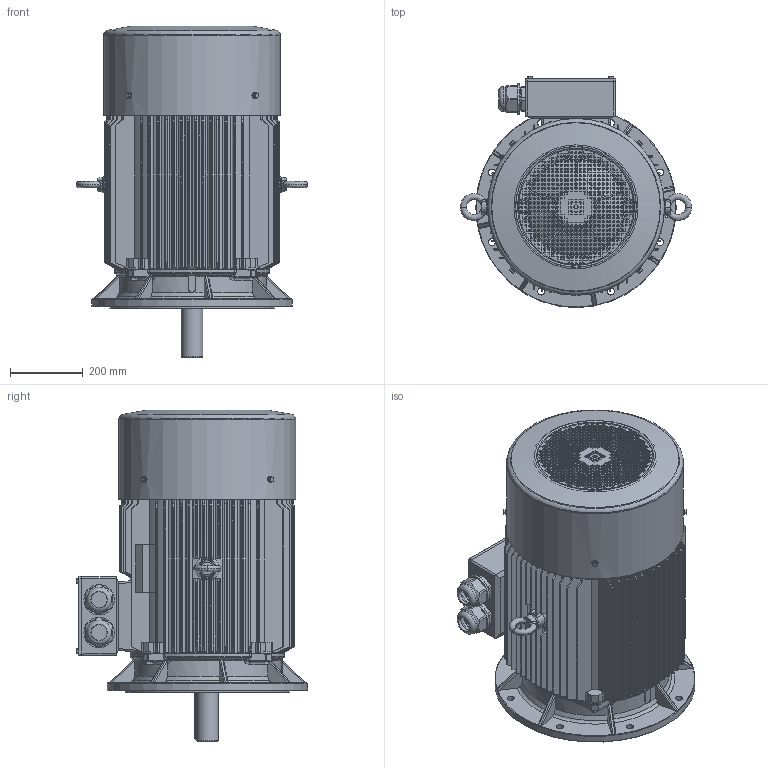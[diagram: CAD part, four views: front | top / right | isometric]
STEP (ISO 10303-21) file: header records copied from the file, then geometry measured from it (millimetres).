
FILE_DESCRIPTION(/* description */ (''),/* implementation_level */ '2;1');
FILE_NAME(/* name */ 'JM1-250M-2-B5.stp',/* time_stamp */ '2016-11-29T09:53:52+08:00',/* author */ (''),/* organization */ (''),/* preprocessor_version */ 'ST-DEVELOPER v16',/* originating_system */ 'SIEMENS PLM Software NX 10.0',/* authorisation */ '');
FILE_SCHEMA (('CONFIG_CONTROL_DESIGN'));
Length unit declared in the file: millimetre
Products named in the file (1): JM1-250M-2-B5
Bounding box: 634.8 x 633.8 x 910.08 mm (x, y, z)
Volume: 28438178.5 mm3; surface area: 6289448.4 mm2
Topology: 67 solids, 67 shells, 5706 faces, 15673 edges, 10265 vertices
Faces by surface type: plane 3746, cylinder 1043, cone 371, bspline 287, torus 241, sphere 18
Full cylindrical faces by diameter (mm): 7.188 x4, 8 x8, 8.4 x4, 9.026 x8, 10 x8, 10.863 x12, 11.2 x8, 12 x12, 12.6 x12, 16 x4, 20 x1, 43.312 x2, 51.188 x4, 59 x1, 60 x1, 61.031 x12, 63 x4, 64.969 x12, 67.922 x2, 69 x1, 70 x4, 83.672 x2, 90 x4, 400 x1, 481 x1, 485 x1, 550 x1
Entity records: 202219 total; most frequent: CARTESIAN_POINT 59471, ORIENTED_EDGE 30514, DIRECTION 26699, EDGE_CURVE 15257, LINE 10489, VECTOR 10489, VERTEX_POINT 10143, AXIS2_PLACEMENT_3D 8105
